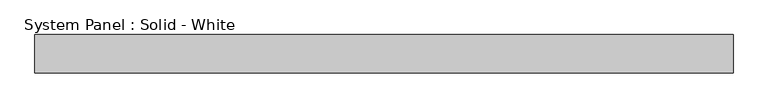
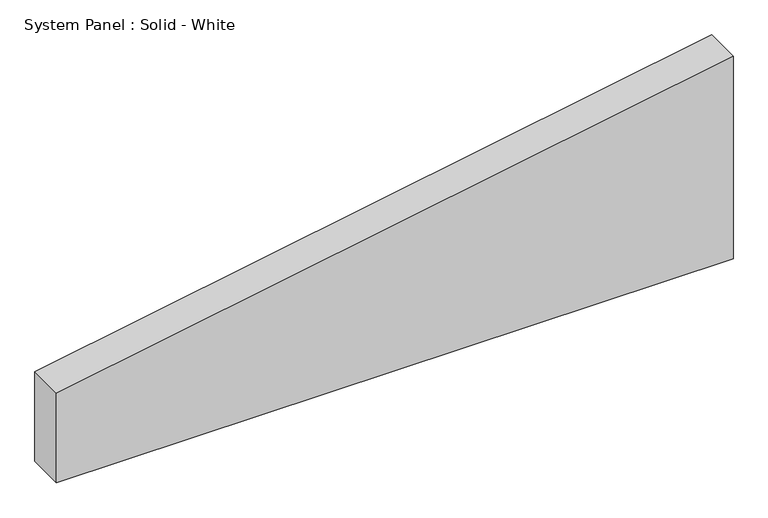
"""IFC4 building model written with IfcOpenShell, lengths in millimetres: plate geometry, System Panel : Solid - White."""

from ifc_helpers import new_model, si_unit, frame, origin, place, context, project, spatial, polyline, outline, extrude, source, transform, mapped, element, save


def system_panel_solid_white_900c7463(model_context):
    return source(origin(), model_context, "Body", "SweptSolid", [
        extrude(outline(polyline([(0.0, -575.3099999), (0.0, 575.3099999), (363.6846378, 575.3099999), (160.7992873, -575.3099999), (0.0, -575.3099999)])), frame((0.0, -19.05, 0.0), z_axis=(0.0, 1.0, 0.0), x_axis=(0.0, 0.0, 1.0)), (0.0, 0.0, 1.0), 63.5),
    ])


if __name__ == "__main__":
    model = new_model("IFC4")
    model_context = context("Model", 3, world=origin())
    ifc_project = project(units=[si_unit("LENGTHUNIT", "METRE", prefix="MILLI")], contexts=[model_context])
    site = spatial("IfcSite", under=ifc_project)
    building = spatial("IfcBuilding", under=site)
    placement = place(None, origin())
    system_panel_solid_white_shape = system_panel_solid_white_900c7463(model_context)
    element("IfcPlate", 1, ObjectType="System Panel : Solid - White", at=placement, inside=building, context=model_context, shape_type="MappedRepresentation", body=[
        mapped(system_panel_solid_white_shape, transform((0.0, 0.0, 0.0), x_axis=(1.0, 0.0, 0.0), y_axis=(0.0, 1.0, 0.0), z_axis=(0.0, 0.0, 1.0))),
    ])
    save(model, "model.ifc")
